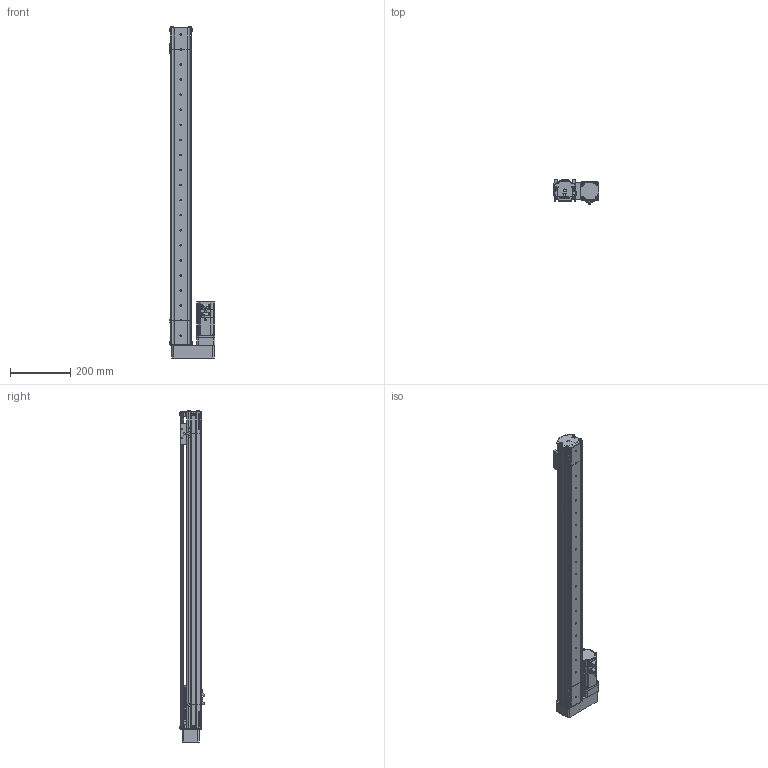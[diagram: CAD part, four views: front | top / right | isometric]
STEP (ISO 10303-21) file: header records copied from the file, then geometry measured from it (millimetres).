
FILE_DESCRIPTION (( 'STEP AP214' ), '1' );
FILE_NAME ('S07 TS BR S900.STEP', '2010-06-29T11:17:09', ( 'Conseil Régional Haute-Normandie' ), ( 'Conseil Régional Haute-Normandie' ), 'SwSTEP 2.0', 'SolidWorks 2010', '' );
FILE_SCHEMA (( 'AUTOMOTIVE_DESIGN' ));
Length unit declared in the file: millimetre
Products named in the file (35): GMB 60 90 310_Default; S07 tail (78)_Default; couvercle S07 course 900 ; arbre + rail Course 900 ; P2 90A_Default; P3 90A_Default; P4_Default; Axe 60BLDC_Default; S07 TS BR S900; Conecteur2 60BLDC_Default; Conecteur 60BLDC_Default; VisM3_Default; Vis M5 L16-2_Default; Course 900_Default; Corp S07 course 900_Default; T皻e d''axe Haut 2_Default; plaque de bout_Default; arbre S07 moteur; T皻e d''axe bas_Default; chariot_Default; corp couvert coupé_Default; couvercle S07 (78); vis M5 L16_Default; Plaque racord_Default; Arbre+rail tail78; plaque de bout BR_Default; Chariot; S07 BR(124)_Default; corp moteur BR(124)_Default; guide; vis M5 L12_Default; couvercle moteur S07 BR(124); rail S07 moteur; vis M5 L5_Default; P1_Default
Assembly tree (61 placements, depth 4):
  S07 TS BR S900
    chariot_Default
      vis M5 L12_Default  x2
      guide
      Chariot
    S07 tail (78)_Default
      plaque de bout_Default
      vis M5 L12_Default  x8
      corp couvert coupé_Default
      vis M5 L16_Default  x2
      T皻e d''axe bas_Default
      Arbre+rail tail78
      couvercle S07 (78)
      T皻e d''axe Haut 2_Default
    Course 900_Default
      couvercle S07 course 900 
      arbre + rail Course 900 
      Corp S07 course 900_Default
    S07 BR(124)_Default
      vis M5 L5_Default  x2
      vis M5 L12_Default  x2
      couvercle moteur S07 BR(124)
      Vis M5 L16-2_Default  x4
      plaque de bout BR_Default
      rail S07 moteur
      GMB 60 90 310_Default
        Conecteur 60BLDC_Default
        VisM3_Default  x12
        Conecteur2 60BLDC_Default
        P1_Default
        Axe 60BLDC_Default
        P3 90A_Default
        P4_Default
        P2 90A_Default
      Plaque racord_Default
      corp moteur BR(124)_Default
      arbre S07 moteur
Bounding box: 152.2 x 83.7 x 1102 mm (x, y, z)
Volume: 2504301.2 mm3; surface area: 896285.8 mm2
Topology: 82 solids, 82 shells, 3374 faces, 8496 edges, 5519 vertices
Faces by surface type: plane 1907, bspline 677, cylinder 605, torus 96, cone 89
Entity records: 158796 total; most frequent: CARTESIAN_POINT 73669, ORIENTED_EDGE 14248, DIRECTION 11015, EDGE_CURVE 7124, VERTEX_POINT 4709, VECTOR 4669, LINE 4669, AXIS2_PLACEMENT_3D 3173
